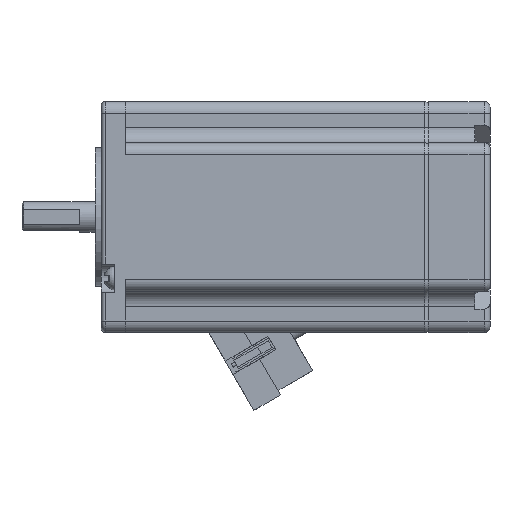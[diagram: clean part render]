
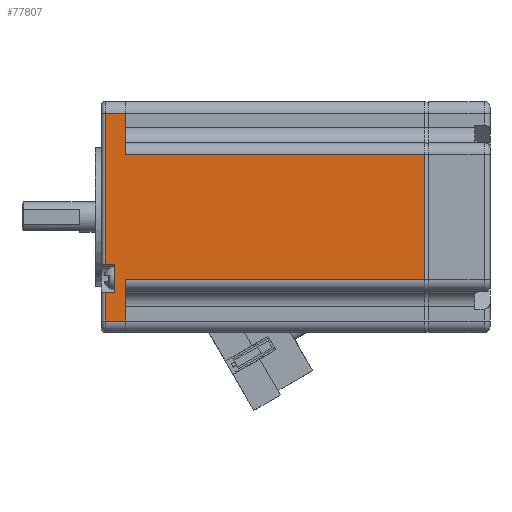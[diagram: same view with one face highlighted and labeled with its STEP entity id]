
A CAD part, front view. The second image highlights one B-rep face of the part: STEP entity #77807.
In plain terms, the highlighted planar face has unit normal (0, -1, 0).
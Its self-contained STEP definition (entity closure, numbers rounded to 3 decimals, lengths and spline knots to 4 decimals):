
#530=PLANE('',#81950);
#4275=FACE_OUTER_BOUND('',#8343,.T.);
#8343=EDGE_LOOP('',(#54484,#54485,#54486,#54487,#54488,#54489,#54490,#54491,
#54492,#54493,#54494,#54495));
#12594=LINE('',#107106,#23408);
#12611=LINE('',#107158,#23425);
#12612=LINE('',#107161,#23426);
#12613=LINE('',#107163,#23427);
#12614=LINE('',#107165,#23428);
#12615=LINE('',#107167,#23429);
#12616=LINE('',#107169,#23430);
#12617=LINE('',#107171,#23431);
#12618=LINE('',#107173,#23432);
#12619=LINE('',#107175,#23433);
#12620=LINE('',#107177,#23434);
#12621=LINE('',#107178,#23435);
#23408=VECTOR('',#86866,3.0591);
#23425=VECTOR('',#86917,3.0591);
#23426=VECTOR('',#86922,1.2835);
#23427=VECTOR('',#86923,0.4213);
#23428=VECTOR('',#86924,0.2087);
#23429=VECTOR('',#86925,1.5433);
#23430=VECTOR('',#86926,0.0984);
#23431=VECTOR('',#86927,0.2913);
#23432=VECTOR('',#86928,0.0984);
#23433=VECTOR('',#86929,0.2913);
#23434=VECTOR('',#86930,0.2087);
#23435=VECTOR('',#86931,0.4213);
#34968=VERTEX_POINT('',#107104);
#34969=VERTEX_POINT('',#107105);
#34986=VERTEX_POINT('',#107155);
#34987=VERTEX_POINT('',#107157);
#34988=VERTEX_POINT('',#107162);
#34989=VERTEX_POINT('',#107164);
#34990=VERTEX_POINT('',#107166);
#34991=VERTEX_POINT('',#107168);
#34992=VERTEX_POINT('',#107170);
#34993=VERTEX_POINT('',#107172);
#34994=VERTEX_POINT('',#107174);
#34995=VERTEX_POINT('',#107176);
#42756=EDGE_CURVE('',#34968,#34969,#12594,.T.);
#42782=EDGE_CURVE('',#34987,#34986,#12611,.T.);
#42784=EDGE_CURVE('',#34986,#34968,#12612,.T.);
#42785=EDGE_CURVE('',#34969,#34988,#12613,.T.);
#42786=EDGE_CURVE('',#34988,#34989,#12614,.T.);
#42787=EDGE_CURVE('',#34989,#34990,#12615,.T.);
#42788=EDGE_CURVE('',#34990,#34991,#12616,.T.);
#42789=EDGE_CURVE('',#34991,#34992,#12617,.T.);
#42790=EDGE_CURVE('',#34992,#34993,#12618,.T.);
#42791=EDGE_CURVE('',#34993,#34994,#12619,.T.);
#42792=EDGE_CURVE('',#34995,#34994,#12620,.T.);
#42793=EDGE_CURVE('',#34987,#34995,#12621,.T.);
#54484=ORIENTED_EDGE('',*,*,#42782,.T.);
#54485=ORIENTED_EDGE('',*,*,#42784,.T.);
#54486=ORIENTED_EDGE('',*,*,#42756,.T.);
#54487=ORIENTED_EDGE('',*,*,#42785,.T.);
#54488=ORIENTED_EDGE('',*,*,#42786,.T.);
#54489=ORIENTED_EDGE('',*,*,#42787,.T.);
#54490=ORIENTED_EDGE('',*,*,#42788,.T.);
#54491=ORIENTED_EDGE('',*,*,#42789,.T.);
#54492=ORIENTED_EDGE('',*,*,#42790,.T.);
#54493=ORIENTED_EDGE('',*,*,#42791,.T.);
#54494=ORIENTED_EDGE('',*,*,#42792,.F.);
#54495=ORIENTED_EDGE('',*,*,#42793,.F.);
#77807=ADVANCED_FACE('',(#4275),#530,.T.);
#81950=AXIS2_PLACEMENT_3D('',#107160,#86920,#86921);
#86866=DIRECTION('',(-1.,0.,0.));
#86917=DIRECTION('',(1.,0.,0.));
#86920=DIRECTION('center_axis',(0.,-1.,0.));
#86921=DIRECTION('ref_axis',(1.,0.,0.));
#86922=DIRECTION('',(0.,0.,1.));
#86923=DIRECTION('',(0.,0.,1.));
#86924=DIRECTION('',(-1.,0.,0.));
#86925=DIRECTION('',(0.,0.,-1.));
#86926=DIRECTION('',(1.,0.,0.));
#86927=DIRECTION('',(0.,0.,-1.));
#86928=DIRECTION('',(-1.,0.,0.));
#86929=DIRECTION('',(0.,0.,-1.));
#86930=DIRECTION('',(-1.,0.,0.));
#86931=DIRECTION('',(0.,0.,-1.));
#107104=CARTESIAN_POINT('',(3.5433,-1.1173,0.7404));
#107105=CARTESIAN_POINT('',(0.4843,-1.1173,0.7404));
#107106=CARTESIAN_POINT('',(0.2362,-1.1173,0.7404));
#107155=CARTESIAN_POINT('',(3.5433,-1.1173,-0.5431));
#107157=CARTESIAN_POINT('',(0.4843,-1.1173,-0.5431));
#107158=CARTESIAN_POINT('',(0.2362,-1.1173,-0.5431));
#107160=CARTESIAN_POINT('Origin',(0.2362,-1.1173,1.2798));
#107161=CARTESIAN_POINT('',(3.5433,-1.1173,1.2798));
#107162=CARTESIAN_POINT('',(0.4843,-1.1173,1.1617));
#107163=CARTESIAN_POINT('',(0.4843,-1.1173,1.2798));
#107164=CARTESIAN_POINT('',(0.2756,-1.1173,1.1617));
#107165=CARTESIAN_POINT('',(0.2362,-1.1173,1.1617));
#107166=CARTESIAN_POINT('',(0.2756,-1.1173,-0.3816));
#107167=CARTESIAN_POINT('',(0.2756,-1.1173,1.2798));
#107168=CARTESIAN_POINT('',(0.374,-1.1173,-0.3816));
#107169=CARTESIAN_POINT('',(0.2362,-1.1173,-0.3816));
#107170=CARTESIAN_POINT('',(0.374,-1.1173,-0.673));
#107171=CARTESIAN_POINT('',(0.374,-1.1173,1.2798));
#107172=CARTESIAN_POINT('',(0.2756,-1.1173,-0.673));
#107173=CARTESIAN_POINT('',(0.2362,-1.1173,-0.673));
#107174=CARTESIAN_POINT('',(0.2756,-1.1173,-0.9643));
#107175=CARTESIAN_POINT('',(0.2756,-1.1173,1.2798));
#107176=CARTESIAN_POINT('',(0.4843,-1.1173,-0.9643));
#107177=CARTESIAN_POINT('',(0.2362,-1.1173,-0.9643));
#107178=CARTESIAN_POINT('',(0.4843,-1.1173,-1.1035));
